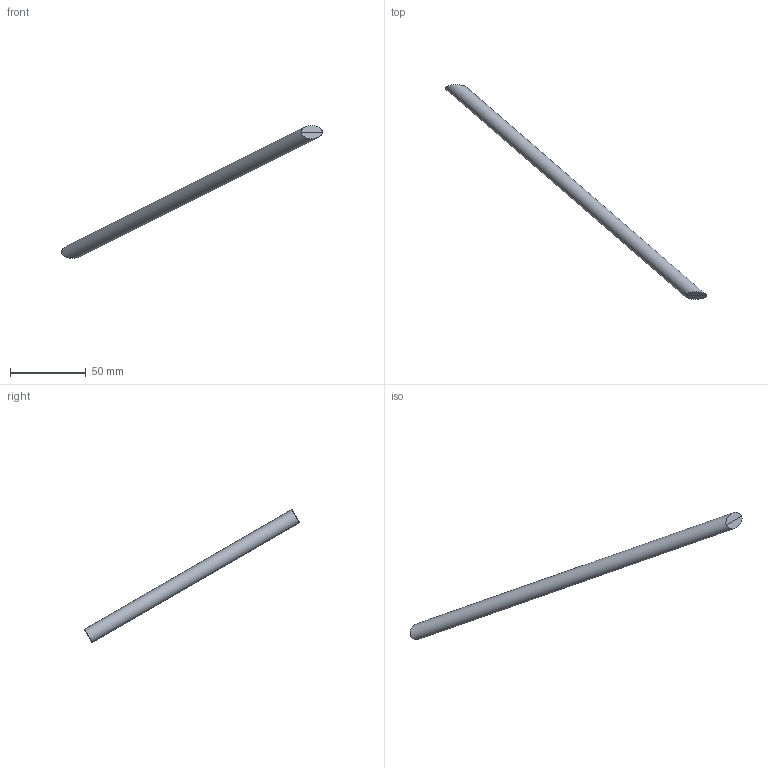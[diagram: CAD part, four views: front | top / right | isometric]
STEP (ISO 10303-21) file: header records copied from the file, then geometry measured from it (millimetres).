
FILE_DESCRIPTION(/* description */ (''),/* implementation_level */ '2;1');
FILE_NAME(/* name */ 'M:\Symbolen_NIEUW\STP\20-er truss\E20D\E20D-L400_111020040.stp',/* time_stamp */ '2017-11-16T14:13:33+01:00',/* author */ ('Kees'),/* organization */ (''),/* preprocessor_version */ 'ST-DEVELOPER v16.13',/* originating_system */ 'Autodesk Inventor 2018',/* authorisation */ '');
FILE_SCHEMA (('AUTOMOTIVE_DESIGN { 1 0 10303 214 3 1 1 }'));
Length unit declared in the file: millimetre
Products named in the file (1): 260005739
Bounding box: 172.14 x 141.82 x 87.64 mm (x, y, z)
Volume: 17549.4 mm3; surface area: 7241.9 mm2
Topology: 1 solids, 1 shells, 5 faces, 7 edges, 4 vertices
Faces by surface type: plane 4, cylinder 1
Full cylindrical faces by diameter (mm): 10 x1
Entity records: 149 total; most frequent: DIRECTION 22, CARTESIAN_POINT 16, ORIENTED_EDGE 12, AXIS2_PLACEMENT_3D 10, EDGE_LOOP 6, EDGE_CURVE 6, STYLED_ITEM 6, FACE_OUTER_BOUND 5
